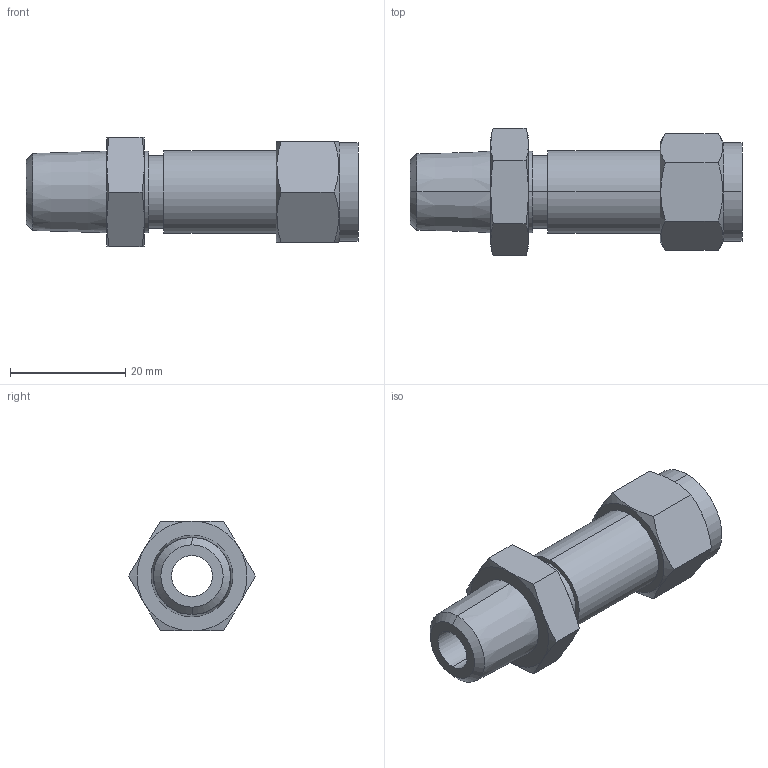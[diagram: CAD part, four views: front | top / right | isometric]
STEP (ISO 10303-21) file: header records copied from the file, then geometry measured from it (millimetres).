
FILE_DESCRIPTION (( 'STEP AP203' ), '1' );
FILE_NAME ('DSC06-04 SS.STEP', '2009-09-08T09:00:58', ( ' ' ), ( '' ), 'SwSTEP 2.0', 'SolidWorks 2008', '' );
FILE_SCHEMA (( 'CONFIG_CONTROL_DESIGN' ));
Length unit declared in the file: millimetre
Products named in the file (1): DSC06-04 SS
Bounding box: 57.5 x 22 x 19.05 mm (x, y, z)
Volume: 8424.6 mm3; surface area: 5015.8 mm2
Topology: 1 solids, 1 shells, 52 faces, 116 edges, 72 vertices
Faces by surface type: cone 20, plane 20, cylinder 12
Entity records: 1693 total; most frequent: CARTESIAN_POINT 497, ORIENTED_EDGE 232, DIRECTION 226, EDGE_CURVE 116, AXIS2_PLACEMENT_3D 97, VERTEX_POINT 72, EDGE_LOOP 60, ADVANCED_FACE 52
